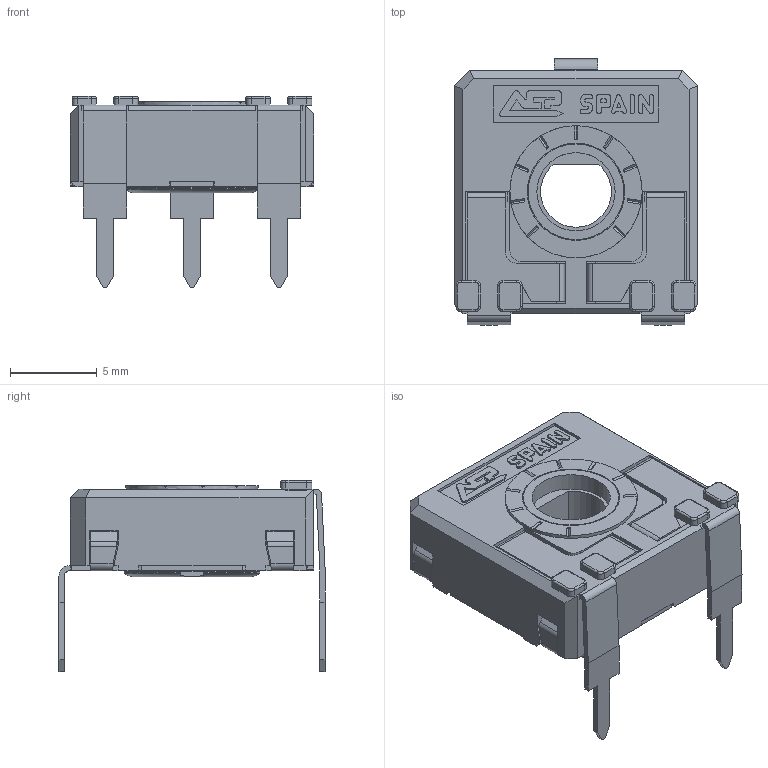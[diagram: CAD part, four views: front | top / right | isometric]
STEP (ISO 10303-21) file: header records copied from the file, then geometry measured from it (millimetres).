
FILE_DESCRIPTION(/* description */ (''),/* implementation_level */ '2;1');
FILE_NAME(/* name */ 'C:\Users\CEM\Desktop\ENVIAR\TRANSICION 3D CATALOGOS\RS14DV15.stp',/* time_stamp */ '2025-12-10T10:19:08+01:00',/* author */ ('CEM'),/* organization */ (''),/* preprocessor_version */ 'ST-DEVELOPER v16.13',/* originating_system */ 'Autodesk Inventor 2018',/* authorisation */ '');
FILE_SCHEMA (('AUTOMOTIVE_DESIGN { 1 0 10303 214 3 1 1 }'));
Length unit declared in the file: millimetre
Products named in the file (1): CARCASA CA14 PGA
Bounding box: 14 x 15.3 x 11 mm (x, y, z)
Volume: 523.9 mm3; surface area: 1468.6 mm2
Topology: 1 solids, 1 shells, 671 faces, 1888 edges, 1214 vertices
Faces by surface type: plane 496, cylinder 138, torus 23, bspline 8, cone 6
Full cylindrical faces by diameter (mm): 4.5 x1, 5.5 x1, 5.6 x1, 5.752 x1, 6.8 x1, 7.6 x1
Entity records: 21721 total; most frequent: CARTESIAN_POINT 3968, ORIENTED_EDGE 3748, DIRECTION 3536, EDGE_CURVE 1874, LINE 1484, VECTOR 1484, VERTEX_POINT 1210, AXIS2_PLACEMENT_3D 1026
